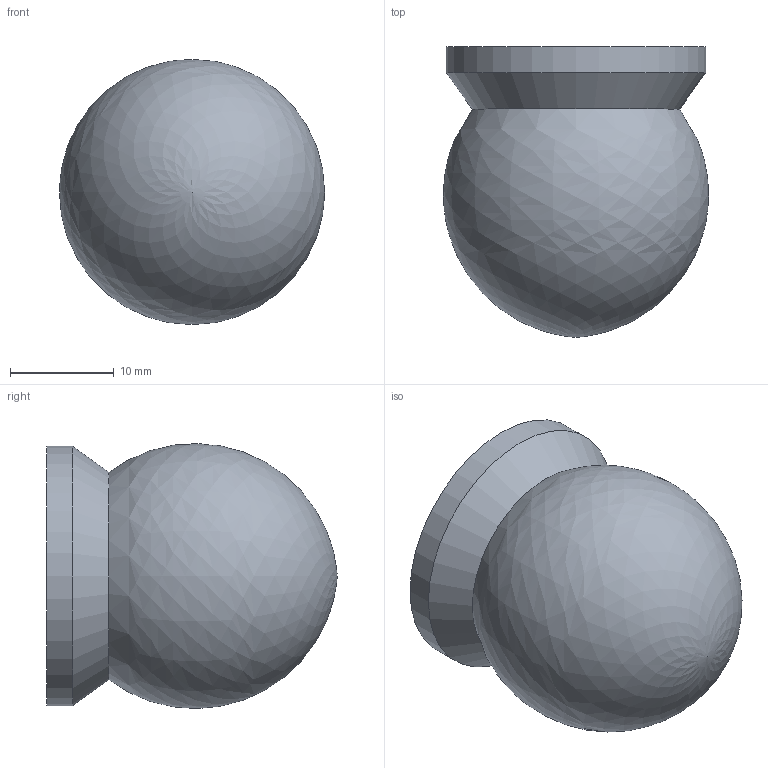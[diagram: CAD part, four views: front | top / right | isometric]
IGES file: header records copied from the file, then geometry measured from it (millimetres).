
Start section: Data from Parasolid IGES Translator 15.0.47, Copyright(c) 2006 Siemens P LM Software. All Rights Reserved.
Global section: file name: 9070562.igs; native system:  By UGS Corp.; preprocessor: XPlus GENERIC/IGES 3.0; author: Noname; organization: Noname; date: 20140122.135810; units: millimetre
Bounding box: 25.54 x 28 x 25.54 mm (x, y, z)
Surface area: 2836 mm2 (no closed solid volume)
Topology: 0 solids, 0 shells, 6 faces, 23 edges, 21 vertices
Faces by surface type: revolution 4, extrusion 2
